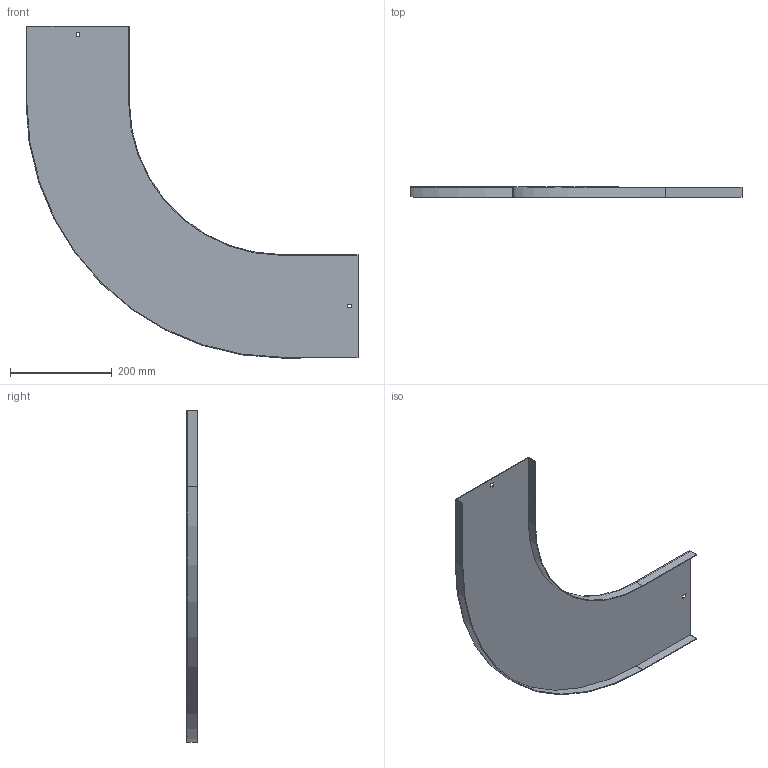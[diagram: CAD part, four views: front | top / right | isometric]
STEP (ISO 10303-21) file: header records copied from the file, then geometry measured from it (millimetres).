
FILE_DESCRIPTION (( 'STEP AP214' ), '1' );
FILE_NAME ('A2_10N3R200.step', '2025-02-21T10:53:44', ( '' ), ( '' ), 'SwSTEP 2.0', 'SolidWorks 2023', '' );
FILE_SCHEMA (( 'AUTOMOTIVE_DESIGN' ));
Length unit declared in the file: millimetre
Products named in the file (1): A2_10N3R200
Bounding box: 651.5 x 20 x 651.5 mm (x, y, z)
Volume: 334019.2 mm3; surface area: 448956.9 mm2
Topology: 1 solids, 1 shells, 26 faces, 72 edges, 48 vertices
Faces by surface type: plane 22, cylinder 4
Entity records: 855 total; most frequent: CARTESIAN_POINT 147, ORIENTED_EDGE 144, DIRECTION 134, EDGE_CURVE 72, LINE 64, VECTOR 64, VERTEX_POINT 48, AXIS2_PLACEMENT_3D 35
